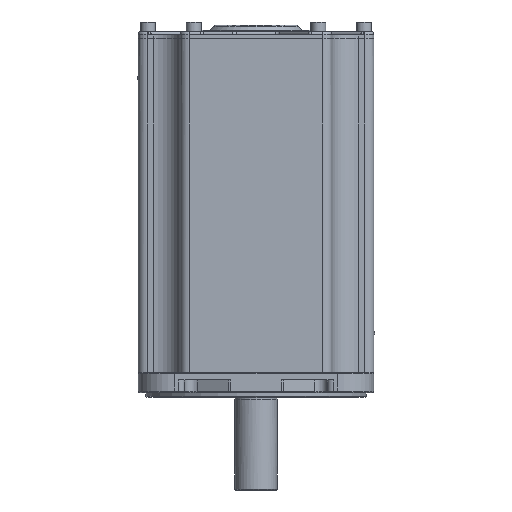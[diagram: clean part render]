
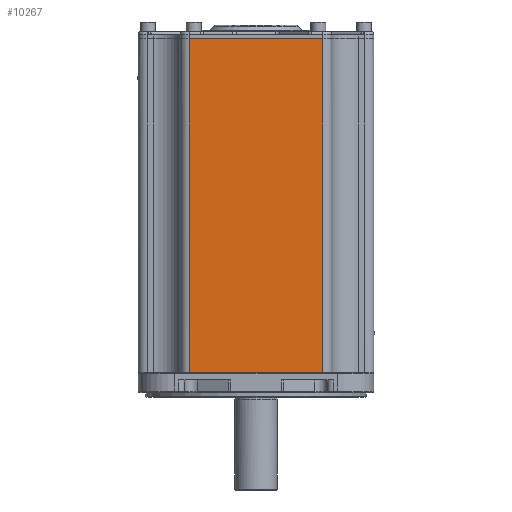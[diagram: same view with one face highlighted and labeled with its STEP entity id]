
A CAD part, front view. The second image highlights one B-rep face of the part: STEP entity #10267.
In plain terms, the highlighted planar face has unit normal (0, -1, 0).
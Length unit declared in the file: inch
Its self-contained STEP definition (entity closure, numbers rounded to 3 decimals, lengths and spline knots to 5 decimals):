
#10183=CARTESIAN_POINT('',(2.985,-5.25,15.35));
#10184=VERTEX_POINT('',#10183);
#10194=CARTESIAN_POINT('',(2.985,-5.25,0.45));
#10195=VERTEX_POINT('',#10194);
#10196=CARTESIAN_POINT('',(2.985,-5.25,15.35));
#10197=DIRECTION('',(0.0,0.0,-1.0));
#10198=VECTOR('',#10197,14.9);
#10199=LINE('',#10196,#10198);
#10200=EDGE_CURVE('',#10184,#10195,#10199,.T.);
#10224=CARTESIAN_POINT('',(-2.985,-5.25,0.45));
#10225=VERTEX_POINT('',#10224);
#10235=CARTESIAN_POINT('',(-2.985,-5.25,0.45));
#10236=DIRECTION('',(1.0,0.0,0.0));
#10237=VECTOR('',#10236,5.97);
#10238=LINE('',#10235,#10237);
#10239=EDGE_CURVE('',#10225,#10195,#10238,.T.);
#10244=CARTESIAN_POINT('',(3.375,-5.25,0.45));
#10245=DIRECTION('',(0.0,-1.0,0.0));
#10246=DIRECTION('',(0.0,0.0,-1.0));
#10247=AXIS2_PLACEMENT_3D('',#10244,#10245,#10246);
#10248=PLANE('',#10247);
#10249=CARTESIAN_POINT('',(-2.985,-5.25,15.35));
#10250=VERTEX_POINT('',#10249);
#10251=CARTESIAN_POINT('',(-2.985,-5.25,15.35));
#10252=DIRECTION('',(1.0,0.0,0.0));
#10253=VECTOR('',#10252,5.97);
#10254=LINE('',#10251,#10253);
#10255=EDGE_CURVE('',#10250,#10184,#10254,.T.);
#10256=ORIENTED_EDGE('',*,*,#10255,.F.);
#10257=CARTESIAN_POINT('',(-2.985,-5.25,0.45));
#10258=DIRECTION('',(0.0,0.0,1.0));
#10259=VECTOR('',#10258,14.9);
#10260=LINE('',#10257,#10259);
#10261=EDGE_CURVE('',#10225,#10250,#10260,.T.);
#10262=ORIENTED_EDGE('',*,*,#10261,.F.);
#10263=ORIENTED_EDGE('',*,*,#10239,.T.);
#10264=ORIENTED_EDGE('',*,*,#10200,.F.);
#10265=EDGE_LOOP('',(#10256,#10262,#10263,#10264));
#10266=FACE_OUTER_BOUND('',#10265,.T.);
#10267=ADVANCED_FACE('',(#10266),#10248,.T.);
